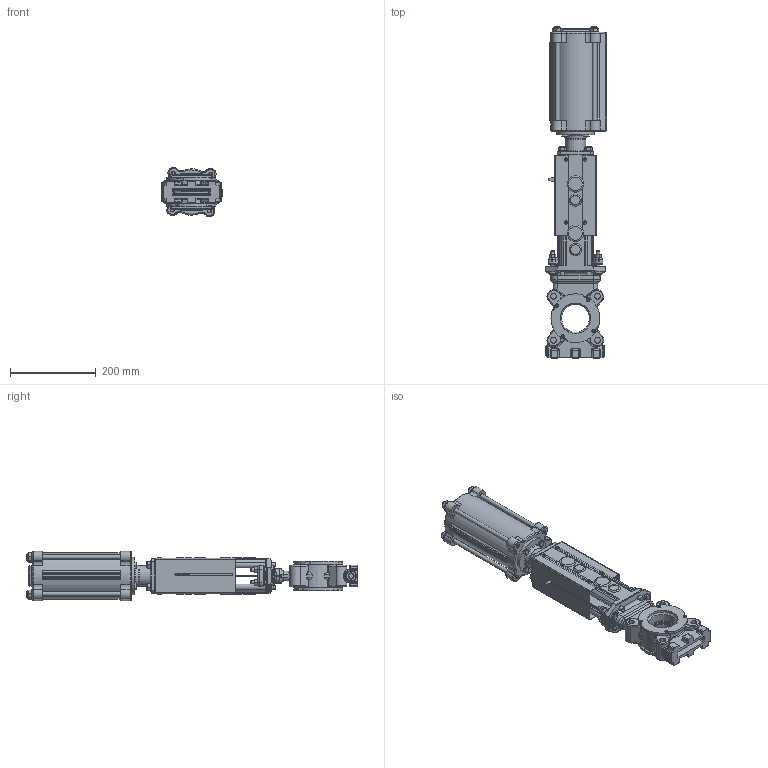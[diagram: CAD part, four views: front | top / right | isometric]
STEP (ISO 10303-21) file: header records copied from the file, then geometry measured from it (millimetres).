
FILE_DESCRIPTION(/* description */ (''),/* implementation_level */ '2;1');
FILE_NAME(/* name */ 'F:\3D-block färdiga för export\SLV-SLF\DN 65\SLV-DN65-PN10-FRSC100-115 LDR.stp',/* time_stamp */ '2021-06-16T13:16:03+02:00',/* author */ ('MATZET'),/* organization */ (''),/* preprocessor_version */ 'ST-DEVELOPER v18',/* originating_system */ 'Autodesk Inventor 2020',/* authorisation */ '');
FILE_SCHEMA (('AUTOMOTIVE_DESIGN { 1 0 10303 214 3 1 1 }'));
Products named in the file (1): SLV-DN65-PN10-FRSC100-115 LDR
Bounding box: 141.63 x 773.5 x 114.74 mm (x, y, z)
Volume: 2425301.7 mm3; surface area: 870927.5 mm2
Topology: 1 solids, 1 shells, 2457 faces, 6381 edges, 4037 vertices
Faces by surface type: plane 910, cylinder 725, torus 312, cone 276, bspline 158, sphere 76
Full cylindrical faces by diameter (mm): 3 x10, 4 x14, 4.134 x4, 4.2 x16, 4.5 x4, 4.917 x2, 5 x8, 6 x4, 7 x8, 8 x23, 8.4 x4, 8.88 x1, 9 x6, 10 x20, 10.5 x8, 11 x8, 11.445 x2, 11.63 x4, 12 x2, 13.835 x8, 14 x4, 14.376 x1, 15 x6, 15.5 x1, 16 x4, 18 x4, 20 x8, 20.15 x2, 22 x1, 24 x5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
Entity records: 93039 total; most frequent: CARTESIAN_POINT 31053, DIRECTION 12903, ORIENTED_EDGE 12674, EDGE_CURVE 6337, AXIS2_PLACEMENT_3D 5370, VERTEX_POINT 4037, CIRCLE 2844, EDGE_LOOP 2738
